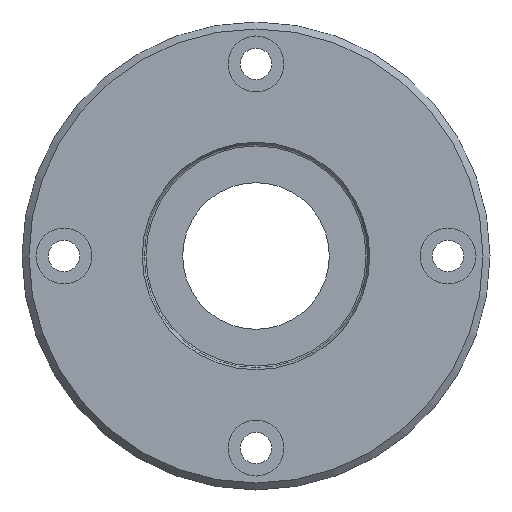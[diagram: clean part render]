
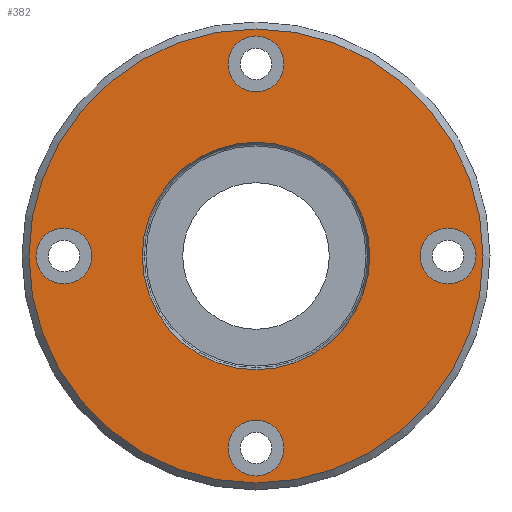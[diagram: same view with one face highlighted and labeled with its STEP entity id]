
A CAD part, left-side view. The second image highlights one B-rep face of the part: STEP entity #382.
In plain terms, the highlighted planar face has unit normal (-1, 0, 0).
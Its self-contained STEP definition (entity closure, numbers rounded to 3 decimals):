
#73=FACE_BOUND('',#133,.T.);
#74=FACE_BOUND('',#134,.T.);
#75=FACE_BOUND('',#135,.T.);
#76=FACE_BOUND('',#136,.T.);
#77=FACE_BOUND('',#137,.T.);
#97=FACE_OUTER_BOUND('',#132,.T.);
#132=EDGE_LOOP('',(#319));
#133=EDGE_LOOP('',(#320));
#134=EDGE_LOOP('',(#321));
#135=EDGE_LOOP('',(#322));
#136=EDGE_LOOP('',(#323));
#137=EDGE_LOOP('',(#324));
#152=CIRCLE('',#419,4.);
#156=CIRCLE('',#426,4.);
#160=CIRCLE('',#433,4.);
#164=CIRCLE('',#440,4.);
#170=CIRCLE('',#451,32.5);
#171=CIRCLE('',#453,16.289);
#184=VERTEX_POINT('',#614);
#188=VERTEX_POINT('',#627);
#192=VERTEX_POINT('',#640);
#196=VERTEX_POINT('',#653);
#202=VERTEX_POINT('',#674);
#203=VERTEX_POINT('',#678);
#215=EDGE_CURVE('',#184,#184,#152,.T.);
#221=EDGE_CURVE('',#188,#188,#156,.T.);
#227=EDGE_CURVE('',#192,#192,#160,.T.);
#233=EDGE_CURVE('',#196,#196,#164,.T.);
#243=EDGE_CURVE('',#202,#202,#170,.T.);
#245=EDGE_CURVE('',#203,#203,#171,.T.);
#319=ORIENTED_EDGE('',*,*,#243,.T.);
#320=ORIENTED_EDGE('',*,*,#215,.T.);
#321=ORIENTED_EDGE('',*,*,#221,.T.);
#322=ORIENTED_EDGE('',*,*,#227,.T.);
#323=ORIENTED_EDGE('',*,*,#233,.T.);
#324=ORIENTED_EDGE('',*,*,#245,.F.);
#362=PLANE('',#452);
#382=ADVANCED_FACE('',(#97,#73,#74,#75,#76,#77),#362,.T.);
#419=AXIS2_PLACEMENT_3D('',#615,#483,#484);
#426=AXIS2_PLACEMENT_3D('',#628,#499,#500);
#433=AXIS2_PLACEMENT_3D('',#641,#515,#516);
#440=AXIS2_PLACEMENT_3D('',#654,#531,#532);
#451=AXIS2_PLACEMENT_3D('',#675,#557,#558);
#452=AXIS2_PLACEMENT_3D('',#677,#560,#561);
#453=AXIS2_PLACEMENT_3D('',#679,#562,#563);
#483=DIRECTION('center_axis',(1.,0.,0.));
#484=DIRECTION('ref_axis',(0.,-1.,0.));
#499=DIRECTION('center_axis',(1.,0.,0.));
#500=DIRECTION('ref_axis',(0.,0.,-1.));
#515=DIRECTION('center_axis',(1.,0.,0.));
#516=DIRECTION('ref_axis',(0.,1.,0.));
#531=DIRECTION('center_axis',(1.,0.,0.));
#532=DIRECTION('ref_axis',(0.,0.,1.));
#557=DIRECTION('center_axis',(-1.,0.,0.));
#558=DIRECTION('ref_axis',(0.,0.,1.));
#560=DIRECTION('center_axis',(-1.,0.,0.));
#561=DIRECTION('ref_axis',(0.,0.,1.));
#562=DIRECTION('center_axis',(-1.,0.,0.));
#563=DIRECTION('ref_axis',(0.,0.,1.));
#614=CARTESIAN_POINT('',(-8.,4.,27.5));
#615=CARTESIAN_POINT('Origin',(-8.,0.,27.5));
#627=CARTESIAN_POINT('',(-8.,-27.5,4.));
#628=CARTESIAN_POINT('Origin',(-8.,-27.5,0.));
#640=CARTESIAN_POINT('',(-8.,-4.,-27.5));
#641=CARTESIAN_POINT('Origin',(-8.,0.,-27.5));
#653=CARTESIAN_POINT('',(-8.,27.5,-4.));
#654=CARTESIAN_POINT('Origin',(-8.,27.5,0.));
#674=CARTESIAN_POINT('',(-8.,-32.5,0.));
#675=CARTESIAN_POINT('Origin',(-8.,0.,0.));
#677=CARTESIAN_POINT('Origin',(-8.,16.289,0.));
#678=CARTESIAN_POINT('',(-8.,-16.289,0.));
#679=CARTESIAN_POINT('Origin',(-8.,0.,0.));
